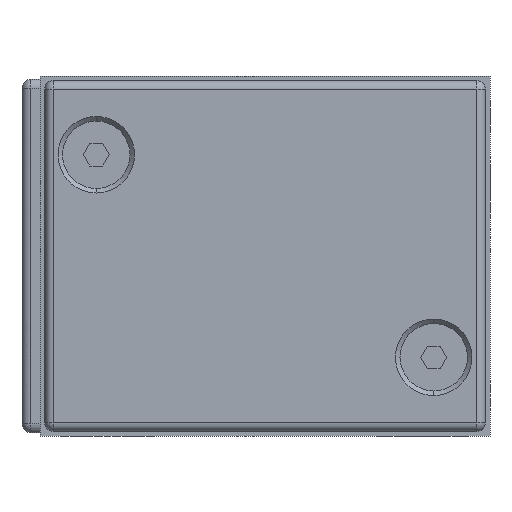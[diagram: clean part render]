
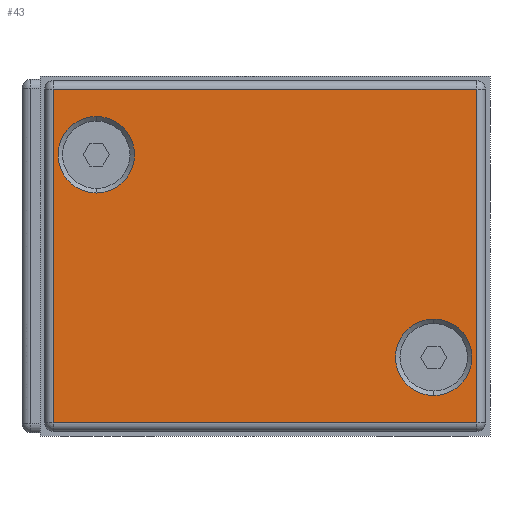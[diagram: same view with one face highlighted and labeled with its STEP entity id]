
A CAD part, front view. The second image highlights one B-rep face of the part: STEP entity #43.
In plain terms, the highlighted planar face has unit normal (0, -1, 0).
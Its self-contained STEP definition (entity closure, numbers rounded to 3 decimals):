
#43 = ADVANCED_FACE ( 'NONE', ( #1547, #1538, #1539 ), #3337, .T. ) ;
#102 = ORIENTED_EDGE ( 'NONE', *, *, #3565, .T. ) ;
#129 = ORIENTED_EDGE ( 'NONE', *, *, #3562, .T. ) ;
#151 = ORIENTED_EDGE ( 'NONE', *, *, #2107, .T. ) ;
#202 = ORIENTED_EDGE ( 'NONE', *, *, #2293, .T. ) ;
#207 = ORIENTED_EDGE ( 'NONE', *, *, #3494, .T. ) ;
#216 = ORIENTED_EDGE ( 'NONE', *, *, #3523, .T. ) ;
#250 = ORIENTED_EDGE ( 'NONE', *, *, #2045, .T. ) ;
#276 = ORIENTED_EDGE ( 'NONE', *, *, #2224, .T. ) ;
#339 = VECTOR ( 'NONE', #848, 1000. ) ;
#345 = LINE ( 'NONE', #1317, #409 ) ;
#395 = LINE ( 'NONE', #849, #339 ) ;
#409 = VECTOR ( 'NONE', #1343, 1000. ) ;
#413 = CIRCLE ( 'NONE', #612, 4.25 ) ;
#424 = VECTOR ( 'NONE', #1165, 1000. ) ;
#556 = LINE ( 'NONE', #1168, #424 ) ;
#612 = AXIS2_PLACEMENT_3D ( 'NONE', #930, #927, #997 ) ;
#625 = AXIS2_PLACEMENT_3D ( 'NONE', #2661, #2617, #2618 ) ;
#848 = DIRECTION ( 'NONE',  ( 0., 0., 1. ) ) ;
#849 = CARTESIAN_POINT ( 'NONE',  ( 48.5, -2., 38.5 ) ) ;
#927 = DIRECTION ( 'NONE',  ( 0., 1., 0. ) ) ;
#930 = CARTESIAN_POINT ( 'NONE',  ( 43.75, -2., 8.75 ) ) ;
#997 = DIRECTION ( 'NONE',  ( 0., 0., -1. ) ) ;
#1165 = DIRECTION ( 'NONE',  ( 0., 0., -1. ) ) ;
#1168 = CARTESIAN_POINT ( 'NONE',  ( 1.5, -2., 1.5 ) ) ;
#1317 = CARTESIAN_POINT ( 'NONE',  ( 48.5, -2., 1.5 ) ) ;
#1343 = DIRECTION ( 'NONE',  ( 1., 0., 0. ) ) ;
#1538 = FACE_BOUND ( 'NONE', #2838, .T. ) ;
#1539 = FACE_OUTER_BOUND ( 'NONE', #2712, .T. ) ;
#1547 = FACE_BOUND ( 'NONE', #2760, .T. ) ;
#1587 = VERTEX_POINT ( 'NONE', #3302 ) ;
#1655 = VERTEX_POINT ( 'NONE', #2963 ) ;
#1720 = VERTEX_POINT ( 'NONE', #3011 ) ;
#1728 = VERTEX_POINT ( 'NONE', #3022 ) ;
#1744 = VERTEX_POINT ( 'NONE', #3045 ) ;
#1790 = VERTEX_POINT ( 'NONE', #3439 ) ;
#1810 = VERTEX_POINT ( 'NONE', #2499 ) ;
#1823 = VERTEX_POINT ( 'NONE', #2485 ) ;
#1924 = CIRCLE ( 'NONE', #2015, 4.25 ) ;
#1942 = CIRCLE ( 'NONE', #2031, 4.25 ) ;
#2015 = AXIS2_PLACEMENT_3D ( 'NONE', #2462, #2483, #2376 ) ;
#2020 = AXIS2_PLACEMENT_3D ( 'NONE', #3352, #3150, #3341 ) ;
#2031 = AXIS2_PLACEMENT_3D ( 'NONE', #2548, #2371, #2557 ) ;
#2045 = EDGE_CURVE ( 'NONE', #1728, #1720, #1942, .T. ) ;
#2107 = EDGE_CURVE ( 'NONE', #1744, #1587, #1924, .T. ) ;
#2224 = EDGE_CURVE ( 'NONE', #1790, #1810, #345, .T. ) ;
#2293 = EDGE_CURVE ( 'NONE', #1810, #1823, #395, .T. ) ;
#2371 = DIRECTION ( 'NONE',  ( 0., 1., 0. ) ) ;
#2376 = DIRECTION ( 'NONE',  ( 0., 0., -1. ) ) ;
#2462 = CARTESIAN_POINT ( 'NONE',  ( 43.75, -2., 8.75 ) ) ;
#2483 = DIRECTION ( 'NONE',  ( 0., 1., 0. ) ) ;
#2485 = CARTESIAN_POINT ( 'NONE',  ( 48.5, -2., 38.5 ) ) ;
#2499 = CARTESIAN_POINT ( 'NONE',  ( 48.5, -2., 1.5 ) ) ;
#2548 = CARTESIAN_POINT ( 'NONE',  ( 6.25, -2., 31.25 ) ) ;
#2557 = DIRECTION ( 'NONE',  ( 0., 0., -1. ) ) ;
#2617 = DIRECTION ( 'NONE',  ( 0., 1., 0. ) ) ;
#2618 = DIRECTION ( 'NONE',  ( 0., 0., -1. ) ) ;
#2623 = CARTESIAN_POINT ( 'NONE',  ( 1.5, -2., 38.5 ) ) ;
#2624 = DIRECTION ( 'NONE',  ( -1., 0., 0. ) ) ;
#2661 = CARTESIAN_POINT ( 'NONE',  ( 6.25, -2., 31.25 ) ) ;
#2712 = EDGE_LOOP ( 'NONE', ( #202, #102, #207, #276 ) ) ;
#2760 = EDGE_LOOP ( 'NONE', ( #151, #216 ) ) ;
#2838 = EDGE_LOOP ( 'NONE', ( #250, #129 ) ) ;
#2963 = CARTESIAN_POINT ( 'NONE',  ( 1.5, -2., 38.5 ) ) ;
#3011 = CARTESIAN_POINT ( 'NONE',  ( 6.25, -2., 35.5 ) ) ;
#3022 = CARTESIAN_POINT ( 'NONE',  ( 6.25, -2., 27. ) ) ;
#3045 = CARTESIAN_POINT ( 'NONE',  ( 43.75, -2., 4.5 ) ) ;
#3150 = DIRECTION ( 'NONE',  ( 0., -1., 0. ) ) ;
#3302 = CARTESIAN_POINT ( 'NONE',  ( 43.75, -2., 13. ) ) ;
#3337 = PLANE ( 'NONE',  #2020 ) ;
#3341 = DIRECTION ( 'NONE',  ( 0., 0., -1. ) ) ;
#3352 = CARTESIAN_POINT ( 'NONE',  ( 1.5, -2., 38.5 ) ) ;
#3439 = CARTESIAN_POINT ( 'NONE',  ( 1.5, -2., 1.5 ) ) ;
#3494 = EDGE_CURVE ( 'NONE', #1655, #1790, #556, .T. ) ;
#3523 = EDGE_CURVE ( 'NONE', #1587, #1744, #413, .T. ) ;
#3562 = EDGE_CURVE ( 'NONE', #1720, #1728, #3610, .T. ) ;
#3565 = EDGE_CURVE ( 'NONE', #1823, #1655, #3611, .T. ) ;
#3610 = CIRCLE ( 'NONE', #625, 4.25 ) ;
#3611 = LINE ( 'NONE', #2623, #3612 ) ;
#3612 = VECTOR ( 'NONE', #2624, 1000. ) ;
